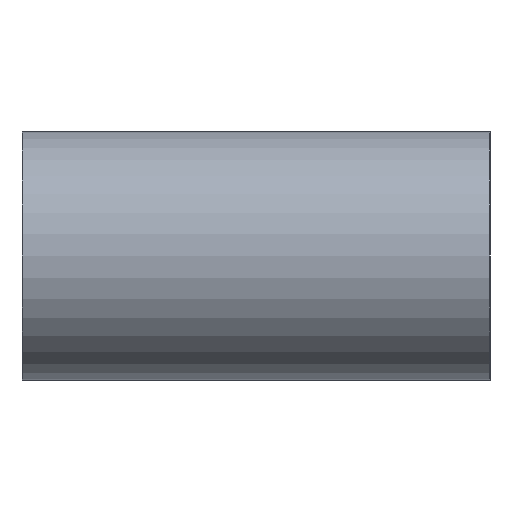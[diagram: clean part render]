
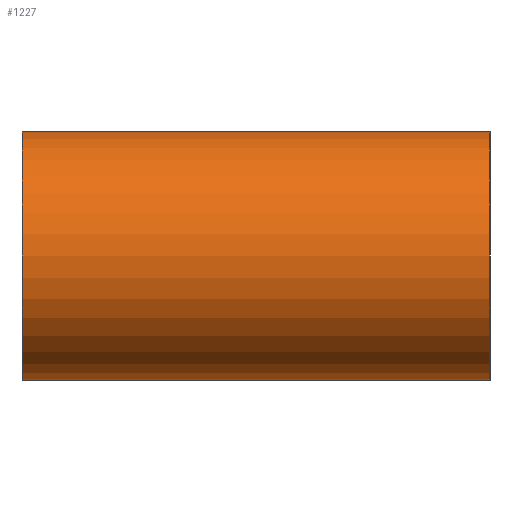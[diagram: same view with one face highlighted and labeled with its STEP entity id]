
A CAD part, left-side view. The second image highlights one B-rep face of the part: STEP entity #1227.
In plain terms, the highlighted cylindrical face has radius 16 mm (diameter 32 mm), a partial arc.
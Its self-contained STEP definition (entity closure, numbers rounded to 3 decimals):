
#380 = VERTEX_POINT('',#381);
#381 = CARTESIAN_POINT('',(-335.,-30.,-32.));
#395 = PLANE('',#396);
#396 = AXIS2_PLACEMENT_3D('',#397,#398,#399);
#397 = CARTESIAN_POINT('',(-335.,-30.,-32.));
#398 = DIRECTION('',(0.,0.,1.));
#399 = DIRECTION('',(1.,0.,-0.));
#477 = PLANE('',#478);
#478 = AXIS2_PLACEMENT_3D('',#479,#480,#481);
#479 = CARTESIAN_POINT('',(-335.,-30.,0.));
#480 = DIRECTION('',(0.,0.,1.));
#481 = DIRECTION('',(1.,0.,-0.));
#637 = PLANE('',#638);
#638 = AXIS2_PLACEMENT_3D('',#639,#640,#641);
#639 = CARTESIAN_POINT('',(-335.,-30.,-16.));
#640 = DIRECTION('',(0.,1.,0.));
#641 = DIRECTION('',(0.,-0.,1.));
#686 = PLANE('',#687);
#687 = AXIS2_PLACEMENT_3D('',#688,#689,#690);
#688 = CARTESIAN_POINT('',(-335.,30.,-16.));
#689 = DIRECTION('',(0.,1.,0.));
#690 = DIRECTION('',(0.,-0.,1.));
#704 = VERTEX_POINT('',#705);
#705 = CARTESIAN_POINT('',(-335.,30.,-32.));
#851 = EDGE_CURVE('',#380,#704,#852,.T.);
#852 = SURFACE_CURVE('',#853,(#857,#864),.PCURVE_S1.);
#853 = LINE('',#854,#855);
#854 = CARTESIAN_POINT('',(-335.,-30.,-32.));
#855 = VECTOR('',#856,1.);
#856 = DIRECTION('',(-0.,1.,0.));
#857 = PCURVE('',#395,#858);
#858 = DEFINITIONAL_REPRESENTATION('',(#859),#863);
#859 = LINE('',#860,#861);
#860 = CARTESIAN_POINT('',(0.,0.));
#861 = VECTOR('',#862,1.);
#862 = DIRECTION('',(0.,1.));
#863 = ( GEOMETRIC_REPRESENTATION_CONTEXT(2) 
PARAMETRIC_REPRESENTATION_CONTEXT() REPRESENTATION_CONTEXT('2D SPACE',''
  ) );
#864 = PCURVE('',#865,#870);
#865 = CYLINDRICAL_SURFACE('',#866,16.);
#866 = AXIS2_PLACEMENT_3D('',#867,#868,#869);
#867 = CARTESIAN_POINT('',(-335.,-30.,-16.));
#868 = DIRECTION('',(0.,1.,0.));
#869 = DIRECTION('',(0.,-0.,1.));
#870 = DEFINITIONAL_REPRESENTATION('',(#871),#875);
#871 = LINE('',#872,#873);
#872 = CARTESIAN_POINT('',(3.142,0.));
#873 = VECTOR('',#874,1.);
#874 = DIRECTION('',(0.,1.));
#875 = ( GEOMETRIC_REPRESENTATION_CONTEXT(2) 
PARAMETRIC_REPRESENTATION_CONTEXT() REPRESENTATION_CONTEXT('2D SPACE',''
  ) );
#915 = EDGE_CURVE('',#916,#918,#920,.T.);
#916 = VERTEX_POINT('',#917);
#917 = CARTESIAN_POINT('',(-335.,-30.,0.));
#918 = VERTEX_POINT('',#919);
#919 = CARTESIAN_POINT('',(-335.,30.,0.));
#920 = SURFACE_CURVE('',#921,(#925,#932),.PCURVE_S1.);
#921 = LINE('',#922,#923);
#922 = CARTESIAN_POINT('',(-335.,-30.,0.));
#923 = VECTOR('',#924,1.);
#924 = DIRECTION('',(-0.,1.,0.));
#925 = PCURVE('',#477,#926);
#926 = DEFINITIONAL_REPRESENTATION('',(#927),#931);
#927 = LINE('',#928,#929);
#928 = CARTESIAN_POINT('',(0.,0.));
#929 = VECTOR('',#930,1.);
#930 = DIRECTION('',(0.,1.));
#931 = ( GEOMETRIC_REPRESENTATION_CONTEXT(2) 
PARAMETRIC_REPRESENTATION_CONTEXT() REPRESENTATION_CONTEXT('2D SPACE',''
  ) );
#932 = PCURVE('',#865,#933);
#933 = DEFINITIONAL_REPRESENTATION('',(#934),#937);
#934 = B_SPLINE_CURVE_WITH_KNOTS('',1,(#935,#936),.UNSPECIFIED.,.F.,.F.,
  (2,2),(0.,60.),.PIECEWISE_BEZIER_KNOTS.);
#935 = CARTESIAN_POINT('',(6.283,0.));
#936 = CARTESIAN_POINT('',(6.283,60.));
#937 = ( GEOMETRIC_REPRESENTATION_CONTEXT(2) 
PARAMETRIC_REPRESENTATION_CONTEXT() REPRESENTATION_CONTEXT('2D SPACE',''
  ) );
#1136 = EDGE_CURVE('',#380,#916,#1137,.T.);
#1137 = SURFACE_CURVE('',#1138,(#1143,#1150),.PCURVE_S1.);
#1138 = CIRCLE('',#1139,16.);
#1139 = AXIS2_PLACEMENT_3D('',#1140,#1141,#1142);
#1140 = CARTESIAN_POINT('',(-335.,-30.,-16.));
#1141 = DIRECTION('',(0.,1.,0.));
#1142 = DIRECTION('',(0.,-0.,1.));
#1143 = PCURVE('',#637,#1144);
#1144 = DEFINITIONAL_REPRESENTATION('',(#1145),#1149);
#1145 = CIRCLE('',#1146,16.);
#1146 = AXIS2_PLACEMENT_2D('',#1147,#1148);
#1147 = CARTESIAN_POINT('',(0.,0.));
#1148 = DIRECTION('',(1.,0.));
#1149 = ( GEOMETRIC_REPRESENTATION_CONTEXT(2) 
PARAMETRIC_REPRESENTATION_CONTEXT() REPRESENTATION_CONTEXT('2D SPACE',''
  ) );
#1150 = PCURVE('',#865,#1151);
#1151 = DEFINITIONAL_REPRESENTATION('',(#1152),#1156);
#1152 = LINE('',#1153,#1154);
#1153 = CARTESIAN_POINT('',(0.,0.));
#1154 = VECTOR('',#1155,1.);
#1155 = DIRECTION('',(1.,0.));
#1156 = ( GEOMETRIC_REPRESENTATION_CONTEXT(2) 
PARAMETRIC_REPRESENTATION_CONTEXT() REPRESENTATION_CONTEXT('2D SPACE',''
  ) );
#1184 = EDGE_CURVE('',#704,#918,#1185,.T.);
#1185 = SURFACE_CURVE('',#1186,(#1191,#1198),.PCURVE_S1.);
#1186 = CIRCLE('',#1187,16.);
#1187 = AXIS2_PLACEMENT_3D('',#1188,#1189,#1190);
#1188 = CARTESIAN_POINT('',(-335.,30.,-16.));
#1189 = DIRECTION('',(0.,1.,0.));
#1190 = DIRECTION('',(0.,-0.,1.));
#1191 = PCURVE('',#686,#1192);
#1192 = DEFINITIONAL_REPRESENTATION('',(#1193),#1197);
#1193 = CIRCLE('',#1194,16.);
#1194 = AXIS2_PLACEMENT_2D('',#1195,#1196);
#1195 = CARTESIAN_POINT('',(0.,0.));
#1196 = DIRECTION('',(1.,0.));
#1197 = ( GEOMETRIC_REPRESENTATION_CONTEXT(2) 
PARAMETRIC_REPRESENTATION_CONTEXT() REPRESENTATION_CONTEXT('2D SPACE',''
  ) );
#1198 = PCURVE('',#865,#1199);
#1199 = DEFINITIONAL_REPRESENTATION('',(#1200),#1204);
#1200 = LINE('',#1201,#1202);
#1201 = CARTESIAN_POINT('',(0.,60.));
#1202 = VECTOR('',#1203,1.);
#1203 = DIRECTION('',(1.,0.));
#1204 = ( GEOMETRIC_REPRESENTATION_CONTEXT(2) 
PARAMETRIC_REPRESENTATION_CONTEXT() REPRESENTATION_CONTEXT('2D SPACE',''
  ) );
#1227 = ADVANCED_FACE('',(#1228),#865,.T.);
#1228 = FACE_BOUND('',#1229,.T.);
#1229 = EDGE_LOOP('',(#1230,#1231,#1232,#1233));
#1230 = ORIENTED_EDGE('',*,*,#915,.T.);
#1231 = ORIENTED_EDGE('',*,*,#1184,.F.);
#1232 = ORIENTED_EDGE('',*,*,#851,.F.);
#1233 = ORIENTED_EDGE('',*,*,#1136,.T.);
